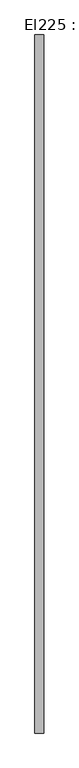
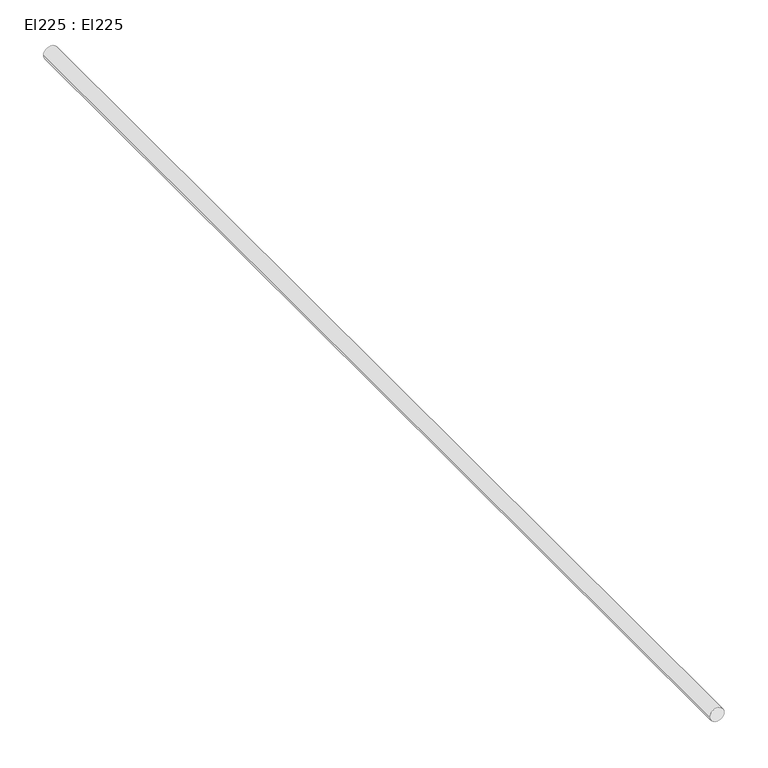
"""IFC4 building model written with IfcOpenShell, lengths in millimetres: cable carrier segment geometry, El225 : El225."""

from ifc_helpers import new_model, si_unit, point, frame, frame_2d, origin, place, context, project, spatial, circle_curve, trimmed, segment, composite_curve, outline, extrude, source, transform, mapped, element, save


def el225_el225_e8b1daae(model_context):
    return source(origin(), model_context, "Body", "SweptSolid", [
        extrude(outline(composite_curve([segment(trimmed(circle_curve(frame_2d((2950.0, 11350.0)), 9.5), [point((2950.0, 11340.5))], [point((2950.0, 11359.5))], False, "CARTESIAN"), True, "CONTINUOUS"), segment(trimmed(circle_curve(frame_2d((2950.0, 11350.0)), 9.5), [point((2950.0, 11359.5))], [point((2950.0, 11340.5))], False, "CARTESIAN"), True, "CONTINUOUS")], self_intersect=False)), frame((0.0, 23933.793, 0.0), z_axis=(0.0, 1.0, 0.0), x_axis=(0.0, 0.0, 1.0)), (0.0, 0.0, 1.0), 1525.01),
    ])


if __name__ == "__main__":
    model = new_model("IFC4")
    model_context = context("Model", 3, world=origin())
    ifc_project = project(units=[si_unit("LENGTHUNIT", "METRE", prefix="MILLI")], contexts=[model_context])
    site = spatial("IfcSite", under=ifc_project)
    building = spatial("IfcBuilding", under=site)
    placement = place(None, origin())
    el225_el225_shape = el225_el225_e8b1daae(model_context)
    element("IfcCableCarrierSegment", 1, ObjectType="El225 : El225", at=placement, inside=building, context=model_context, shape_type="MappedRepresentation", body=[
        mapped(el225_el225_shape, transform((0.0, 0.0, 0.0), x_axis=(1.0, 0.0, 0.0), y_axis=(0.0, 1.0, 0.0), z_axis=(0.0, 0.0, 1.0))),
    ])
    save(model, "model.ifc")
